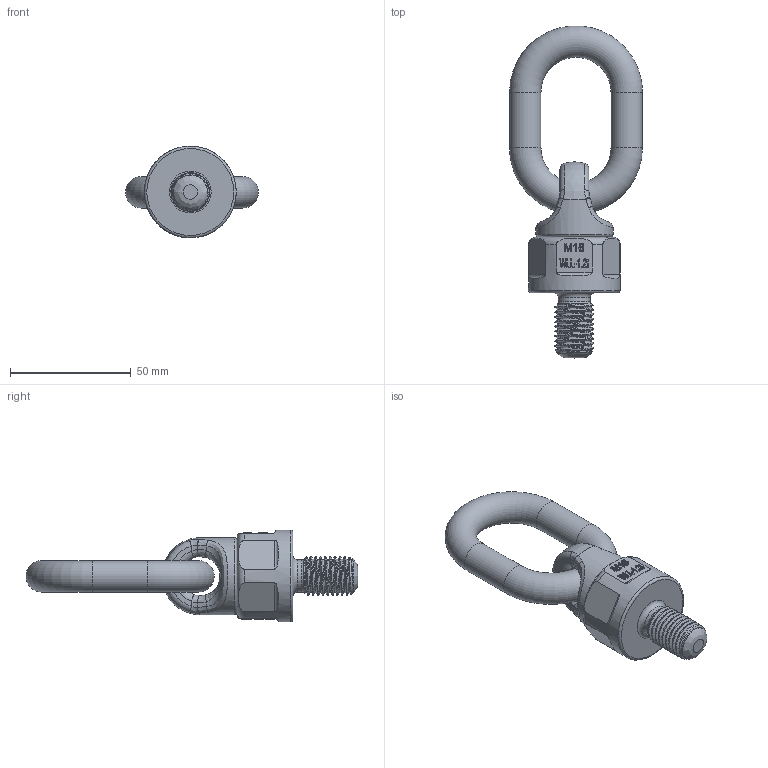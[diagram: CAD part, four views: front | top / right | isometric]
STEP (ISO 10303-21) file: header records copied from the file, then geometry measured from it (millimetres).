
FILE_DESCRIPTION(/* description */ (''),/* implementation_level */ '2;1');
FILE_NAME(/* name */ 'YTJ-M16.stp',/* time_stamp */ '2025-04-02T10:28:56+08:00',/* author */ (''),/* organization */ (''),/* preprocessor_version */ 'ST-DEVELOPER v16',/* originating_system */ 'SIEMENS PLM Software NX 10.0',/* authorisation */ '');
FILE_SCHEMA (('AP203_CONFIGURATION_CONTROLLED_3D_DESIGN_OF_MECHANICAL_PARTS_AND_ASSEMBLIES_MIM_LF { 1 0 10303 403 2 1 2}'));
Length unit declared in the file: millimetre
Products named in the file (1): Admi177C9AD32hxw
Bounding box: 55 x 137.4 x 38 mm (x, y, z)
Volume: 63186.6 mm3; surface area: 19507.9 mm2
Topology: 3 solids, 3 shells, 275 faces, 702 edges, 456 vertices
Faces by surface type: plane 149, extrusion 58, bspline 25, cylinder 21, torus 20, sphere 1, cone 1
Full cylindrical faces by diameter (mm): 13 x2, 13.3 x1, 18.8 x1, 19.9 x1, 31.985 x1, 38 x1
Entity records: 11313 total; most frequent: CARTESIAN_POINT 5267, ORIENTED_EDGE 1328, DIRECTION 965, EDGE_CURVE 664, VERTEX_POINT 442, VECTOR 347, EDGE_LOOP 322, B_SPLINE_CURVE_WITH_KNOTS 317
